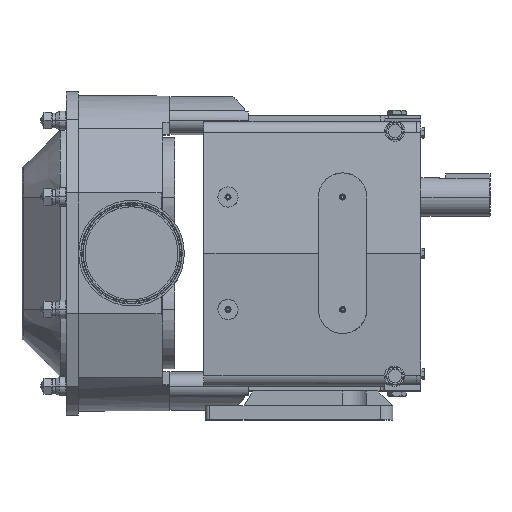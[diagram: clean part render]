
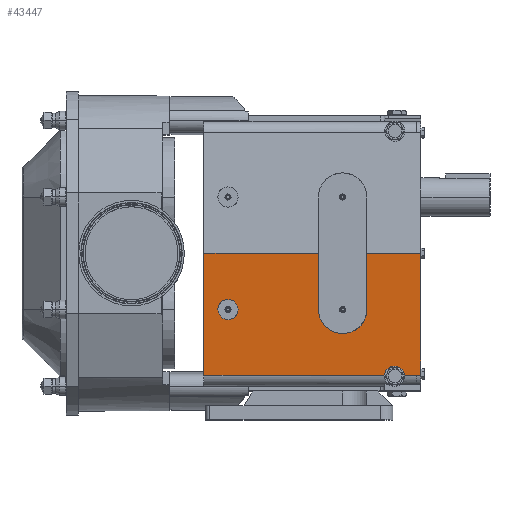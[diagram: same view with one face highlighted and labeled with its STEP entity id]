
A CAD part, top view. The second image highlights one B-rep face of the part: STEP entity #43447.
In plain terms, the highlighted planar face has unit normal (0, -0.087, 0.996).
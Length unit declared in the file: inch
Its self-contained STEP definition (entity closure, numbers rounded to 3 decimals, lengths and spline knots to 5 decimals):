
#3132 = CARTESIAN_POINT ( 'NONE',  ( 15.65, 0., 5. ) ) ;
#3133 = DIRECTION ( 'NONE',  ( -1., 0., 0. ) ) ;
#3134 = VECTOR ( 'NONE', #3133, 39.37008 ) ;
#3135 = CARTESIAN_POINT ( 'NONE',  ( 15.65, 0., 5. ) ) ;
#3136 = LINE ( 'NONE', #3135, #3134 ) ;
#3137 = CARTESIAN_POINT ( 'NONE',  ( 12.28, 0., 5. ) ) ;
#3167 = CARTESIAN_POINT ( 'NONE',  ( 9.28, 0., 5. ) ) ;
#3168 = DIRECTION ( 'NONE',  ( -1., 0., 0. ) ) ;
#3169 = VECTOR ( 'NONE', #3168, 39.37008 ) ;
#3170 = CARTESIAN_POINT ( 'NONE',  ( 15.4, 0., 5. ) ) ;
#3171 = LINE ( 'NONE', #3170, #3169 ) ;
#3172 = CARTESIAN_POINT ( 'NONE',  ( 2.154, 0., 5. ) ) ;
#3177 = VECTOR ( 'NONE', #3236, 39.37008 ) ;
#3178 = CARTESIAN_POINT ( 'NONE',  ( 15.4, -7.57851, 4.33697 ) ) ;
#3179 = LINE ( 'NONE', #3178, #3177 ) ;
#3196 = CARTESIAN_POINT ( 'NONE',  ( 15.65, -7.57847, 4.33697 ) ) ;
#3197 = DIRECTION ( 'NONE',  ( 0., -0.996, -0.087 ) ) ;
#3198 = VECTOR ( 'NONE', #3197, 39.37008 ) ;
#3199 = CARTESIAN_POINT ( 'NONE',  ( 15.65, 0., 5. ) ) ;
#3200 = LINE ( 'NONE', #3199, #3198 ) ;
#3219 = CARTESIAN_POINT ( 'NONE',  ( 15.4, -7.57847, 4.33697 ) ) ;
#3220 = DIRECTION ( 'NONE',  ( 1., 0., 0. ) ) ;
#3221 = VECTOR ( 'NONE', #3220, 39.37008 ) ;
#3222 = CARTESIAN_POINT ( 'NONE',  ( 15.65, -7.57847, 4.33697 ) ) ;
#3227 = LINE ( 'NONE', #3222, #3221 ) ;
#3235 = CARTESIAN_POINT ( 'NONE',  ( 2.154, -7.57851, 4.33697 ) ) ;
#3236 = DIRECTION ( 'NONE',  ( 1., 0., 0. ) ) ;
#3238 = CARTESIAN_POINT ( 'NONE',  ( 9.28, -3.5, 4.69379 ) ) ;
#3243 = CARTESIAN_POINT ( 'NONE',  ( 12.28, -3.5, 4.69379 ) ) ;
#3244 = CARTESIAN_POINT ( 'NONE',  ( 12.28, -6.5, 4.43132 ) ) ;
#3245 = CARTESIAN_POINT ( 'NONE',  ( 9.28, -6.5, 4.43132 ) ) ;
#3246 = CARTESIAN_POINT ( 'NONE',  ( 9.28, -3.5, 4.69379 ) ) ;
#3247 =( BOUNDED_CURVE ( )  B_SPLINE_CURVE ( 3, ( #3246, #3245, #3244, #3243 ),
 .UNSPECIFIED., .F., .T. ) 
 B_SPLINE_CURVE_WITH_KNOTS ( ( 4, 4 ),
 ( 1.5708, 4.71239 ),
 .UNSPECIFIED. ) 
 CURVE ( )  GEOMETRIC_REPRESENTATION_ITEM ( )  RATIONAL_B_SPLINE_CURVE ( ( 1., 0.333, 0.333, 1. ) ) 
 REPRESENTATION_ITEM ( '' )  );
#3249 = CARTESIAN_POINT ( 'NONE',  ( 12.28, -3.5, 4.69379 ) ) ;
#3259 = DIRECTION ( 'NONE',  ( 0., 0.996, 0.087 ) ) ;
#3260 = VECTOR ( 'NONE', #3259, 39.37008 ) ;
#3261 = CARTESIAN_POINT ( 'NONE',  ( 2.154, -9., 4.2126 ) ) ;
#3283 = LINE ( 'NONE', #3261, #3260 ) ;
#3295 = DIRECTION ( 'NONE',  ( 1., 0., 0. ) ) ;
#3296 = VECTOR ( 'NONE', #3295, 39.37008 ) ;
#3297 = CARTESIAN_POINT ( 'NONE',  ( 15.4, -7.57851, 4.33697 ) ) ;
#3298 = LINE ( 'NONE', #3297, #3296 ) ;
#3306 = CARTESIAN_POINT ( 'NONE',  ( 4.275, -3.5, 4.69379 ) ) ;
#3307 = CARTESIAN_POINT ( 'NONE',  ( 4.275, -4.75, 4.58443 ) ) ;
#3308 = CARTESIAN_POINT ( 'NONE',  ( 3.025, -4.75, 4.58443 ) ) ;
#3309 = CARTESIAN_POINT ( 'NONE',  ( 3.025, -3.5, 4.69379 ) ) ;
#3310 =( BOUNDED_CURVE ( )  B_SPLINE_CURVE ( 3, ( #3309, #3308, #3307, #3306 ),
 .UNSPECIFIED., .F., .T. ) 
 B_SPLINE_CURVE_WITH_KNOTS ( ( 4, 4 ),
 ( 1.5708, 4.71239 ),
 .UNSPECIFIED. ) 
 CURVE ( )  GEOMETRIC_REPRESENTATION_ITEM ( )  RATIONAL_B_SPLINE_CURVE ( ( 1., 0.333, 0.333, 1. ) ) 
 REPRESENTATION_ITEM ( '' )  );
#3317 = DIRECTION ( 'NONE',  ( 0., -0.996, -0.087 ) ) ;
#3318 = VECTOR ( 'NONE', #3317, 39.37008 ) ;
#3319 = CARTESIAN_POINT ( 'NONE',  ( 9.28, -1713.04314, -144.87185 ) ) ;
#3320 = LINE ( 'NONE', #3319, #3318 ) ;
#3321 = DIRECTION ( 'NONE',  ( 0., 0.996, 0.087 ) ) ;
#3322 = DIRECTION ( 'NONE',  ( 0., 0.087, -0.996 ) ) ;
#3323 = CARTESIAN_POINT ( 'NONE',  ( 15.65, 0., 5. ) ) ;
#3324 = AXIS2_PLACEMENT_3D ( 'NONE', #3323, #3322, #3321 ) ;
#3325 = PLANE ( 'NONE',  #3324 ) ;
#3326 = FACE_BOUND ( 'NONE', #43414, .T. ) ;
#3327 = FACE_OUTER_BOUND ( 'NONE', #43448, .T. ) ;
#3328 = DIRECTION ( 'NONE',  ( 0., 0.996, 0.087 ) ) ;
#3329 = VECTOR ( 'NONE', #3328, 39.37008 ) ;
#3330 = CARTESIAN_POINT ( 'NONE',  ( 12.28, -1706.09631, -144.26409 ) ) ;
#3331 = LINE ( 'NONE', #3330, #3329 ) ;
#10778 = CARTESIAN_POINT ( 'NONE',  ( 13.38654, -7.57851, 4.33697 ) ) ;
#10779 = CARTESIAN_POINT ( 'NONE',  ( 13.49067, -6.54835, 4.42709 ) ) ;
#10780 = CARTESIAN_POINT ( 'NONE',  ( 14.52607, -6.54835, 4.42709 ) ) ;
#10781 = CARTESIAN_POINT ( 'NONE',  ( 14.6302, -7.57851, 4.33697 ) ) ;
#10782 =( BOUNDED_CURVE ( )  B_SPLINE_CURVE ( 3, ( #10781, #10780, #10779, #10778 ),
 .UNSPECIFIED., .F., .T. ) 
 B_SPLINE_CURVE_WITH_KNOTS ( ( 4, 4 ),
 ( 4.81313, 7.75324 ),
 .UNSPECIFIED. ) 
 CURVE ( )  GEOMETRIC_REPRESENTATION_ITEM ( )  RATIONAL_B_SPLINE_CURVE ( ( 1., 0.4, 0.4, 1. ) ) 
 REPRESENTATION_ITEM ( '' )  );
#10806 = CARTESIAN_POINT ( 'NONE',  ( 14.6302, -7.57851, 4.33697 ) ) ;
#10849 = CARTESIAN_POINT ( 'NONE',  ( 3.025, -3.5, 4.69379 ) ) ;
#10850 = CARTESIAN_POINT ( 'NONE',  ( 3.025, -2.25, 4.80315 ) ) ;
#10851 = CARTESIAN_POINT ( 'NONE',  ( 4.275, -2.25, 4.80315 ) ) ;
#10852 = CARTESIAN_POINT ( 'NONE',  ( 4.275, -3.5, 4.69379 ) ) ;
#10853 =( BOUNDED_CURVE ( )  B_SPLINE_CURVE ( 3, ( #10852, #10851, #10850, #10849 ),
 .UNSPECIFIED., .F., .T. ) 
 B_SPLINE_CURVE_WITH_KNOTS ( ( 4, 4 ),
 ( 4.71239, 7.85398 ),
 .UNSPECIFIED. ) 
 CURVE ( )  GEOMETRIC_REPRESENTATION_ITEM ( )  RATIONAL_B_SPLINE_CURVE ( ( 1., 0.333, 0.333, 1. ) ) 
 REPRESENTATION_ITEM ( '' )  );
#10855 = CARTESIAN_POINT ( 'NONE',  ( 3.025, -3.5, 4.69379 ) ) ;
#10904 = CARTESIAN_POINT ( 'NONE',  ( 13.38654, -7.57851, 4.33697 ) ) ;
#10914 = CARTESIAN_POINT ( 'NONE',  ( 4.275, -3.5, 4.69379 ) ) ;
#43247 = VERTEX_POINT ( 'NONE', #3137 ) ;
#43249 = EDGE_CURVE ( 'NONE', #43250, #43247, #3136, .T. ) ;
#43250 = VERTEX_POINT ( 'NONE', #3132 ) ;
#43265 = VERTEX_POINT ( 'NONE', #3172 ) ;
#43267 = EDGE_CURVE ( 'NONE', #43268, #43265, #3171, .T. ) ;
#43268 = VERTEX_POINT ( 'NONE', #3167 ) ;
#43306 = EDGE_CURVE ( 'NONE', #43250, #43307, #3200, .T. ) ;
#43307 = VERTEX_POINT ( 'NONE', #3196 ) ;
#43338 = EDGE_CURVE ( 'NONE', #43339, #47552, #3179, .T. ) ;
#43339 = VERTEX_POINT ( 'NONE', #3235 ) ;
#43348 = EDGE_CURVE ( 'NONE', #43349, #43307, #3227, .T. ) ;
#43349 = VERTEX_POINT ( 'NONE', #3219 ) ;
#43375 = EDGE_CURVE ( 'NONE', #43389, #43376, #3247, .T. ) ;
#43376 = VERTEX_POINT ( 'NONE', #3249 ) ;
#43389 = VERTEX_POINT ( 'NONE', #3238 ) ;
#43411 = EDGE_CURVE ( 'NONE', #43339, #43265, #3283, .T. ) ;
#43414 = EDGE_LOOP ( 'NONE', ( #43415, #43416 ) ) ;
#43415 = ORIENTED_EDGE ( 'NONE', *, *, #47531, .F. ) ;
#43416 = ORIENTED_EDGE ( 'NONE', *, *, #43417, .F. ) ;
#43417 = EDGE_CURVE ( 'NONE', #47532, #47545, #3310, .T. ) ;
#43427 = ORIENTED_EDGE ( 'NONE', *, *, #43446, .F. ) ;
#43428 = ORIENTED_EDGE ( 'NONE', *, *, #43375, .F. ) ;
#43429 = ORIENTED_EDGE ( 'NONE', *, *, #43450, .F. ) ;
#43430 = ORIENTED_EDGE ( 'NONE', *, *, #43267, .T. ) ;
#43431 = ORIENTED_EDGE ( 'NONE', *, *, #43411, .F. ) ;
#43432 = ORIENTED_EDGE ( 'NONE', *, *, #43338, .T. ) ;
#43433 = ORIENTED_EDGE ( 'NONE', *, *, #47485, .F. ) ;
#43434 = ORIENTED_EDGE ( 'NONE', *, *, #43435, .T. ) ;
#43435 = EDGE_CURVE ( 'NONE', #47498, #43349, #3298, .T. ) ;
#43436 = ORIENTED_EDGE ( 'NONE', *, *, #43348, .T. ) ;
#43437 = ORIENTED_EDGE ( 'NONE', *, *, #43306, .F. ) ;
#43446 = EDGE_CURVE ( 'NONE', #43376, #43247, #3331, .T. ) ;
#43447 = ADVANCED_FACE ( 'NONE', ( #3327, #3326 ), #3325, .F. ) ;
#43448 = EDGE_LOOP ( 'NONE', ( #43449, #43427, #43428, #43429, #43430, #43431, #43432, #43433, #43434, #43436, #43437 ) ) ;
#43449 = ORIENTED_EDGE ( 'NONE', *, *, #43249, .T. ) ;
#43450 = EDGE_CURVE ( 'NONE', #43268, #43389, #3320, .T. ) ;
#47485 = EDGE_CURVE ( 'NONE', #47498, #47552, #10782, .T. ) ;
#47498 = VERTEX_POINT ( 'NONE', #10806 ) ;
#47531 = EDGE_CURVE ( 'NONE', #47545, #47532, #10853, .T. ) ;
#47532 = VERTEX_POINT ( 'NONE', #10855 ) ;
#47545 = VERTEX_POINT ( 'NONE', #10914 ) ;
#47552 = VERTEX_POINT ( 'NONE', #10904 ) ;
